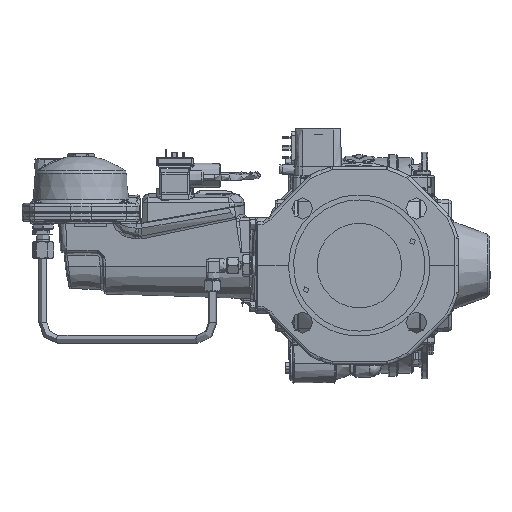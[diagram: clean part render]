
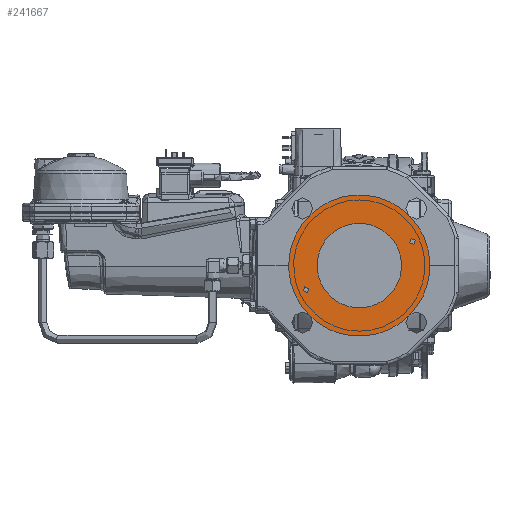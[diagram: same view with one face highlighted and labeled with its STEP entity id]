
A CAD part, left-side view. The second image highlights one B-rep face of the part: STEP entity #241667.
In plain terms, the highlighted planar face has unit normal (-1, 0, 0).
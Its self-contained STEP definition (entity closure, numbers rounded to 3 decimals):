
#4965 = EDGE_CURVE ( 'NONE', #110021, #110021, #8990, .T. ) ;
#8990 = CIRCLE ( 'NONE', #286834, 63.5 ) ;
#10215 = CARTESIAN_POINT ( 'NONE',  ( -147., -193.948, 19.18 ) ) ;
#13393 = EDGE_LOOP ( 'NONE', ( #53530 ) ) ;
#14048 = CARTESIAN_POINT ( 'NONE',  ( -147., -98.323, -24.189 ) ) ;
#15447 = DIRECTION ( 'NONE',  ( 0., -0.413, -0.911 ) ) ;
#15833 = AXIS2_PLACEMENT_3D ( 'NONE', #124392, #234942, #236856 ) ;
#24997 = AXIS2_PLACEMENT_3D ( 'NONE', #150844, #58248, #79971 ) ;
#30562 = EDGE_LOOP ( 'NONE', ( #283146 ) ) ;
#42140 = DIRECTION ( 'NONE',  ( 1., 0., 0. ) ) ;
#53530 = ORIENTED_EDGE ( 'NONE', *, *, #4965, .F. ) ;
#58248 = DIRECTION ( 'NONE',  ( 1., 0., 0. ) ) ;
#60240 = CIRCLE ( 'NONE', #197398, 2.75 ) ;
#61653 = EDGE_CURVE ( 'NONE', #71065, #71065, #83782, .T. ) ;
#70041 = DIRECTION ( 'NONE',  ( 1., 0., 0. ) ) ;
#71065 = VERTEX_POINT ( 'NONE', #10215 ) ;
#79971 = DIRECTION ( 'NONE',  ( 0., -0.413, -0.911 ) ) ;
#83782 = CIRCLE ( 'NONE', #15833, 2.75 ) ;
#86503 = DIRECTION ( 'NONE',  ( 0., -0.413, -0.911 ) ) ;
#90894 = EDGE_CURVE ( 'NONE', #204798, #204798, #138253, .T. ) ;
#92646 = FACE_OUTER_BOUND ( 'NONE', #13393, .T. ) ;
#95539 = DIRECTION ( 'NONE',  ( 0., -0.413, -0.911 ) ) ;
#102935 = EDGE_LOOP ( 'NONE', ( #190637 ) ) ;
#106793 = FACE_BOUND ( 'NONE', #102935, .T. ) ;
#108149 = EDGE_CURVE ( 'NONE', #190714, #190714, #60240, .T. ) ;
#110021 = VERTEX_POINT ( 'NONE', #141268 ) ;
#124392 = CARTESIAN_POINT ( 'NONE',  ( -147., -192.812, 21.685 ) ) ;
#138253 = CIRCLE ( 'NONE', #195577, 38. ) ;
#141268 = CARTESIAN_POINT ( 'NONE',  ( -147., -171.228, -57.83 ) ) ;
#150415 = DIRECTION ( 'NONE',  ( 1., 0., 0. ) ) ;
#150844 = CARTESIAN_POINT ( 'NONE',  ( -147., -145., 0. ) ) ;
#160172 = EDGE_LOOP ( 'NONE', ( #287649 ) ) ;
#173838 = FACE_BOUND ( 'NONE', #30562, .T. ) ;
#190637 = ORIENTED_EDGE ( 'NONE', *, *, #61653, .T. ) ;
#190714 = VERTEX_POINT ( 'NONE', #14048 ) ;
#195577 = AXIS2_PLACEMENT_3D ( 'NONE', #218534, #150415, #15447 ) ;
#197398 = AXIS2_PLACEMENT_3D ( 'NONE', #253295, #70041, #95539 ) ;
#204798 = VERTEX_POINT ( 'NONE', #241627 ) ;
#209293 = FACE_BOUND ( 'NONE', #160172, .T. ) ;
#218534 = CARTESIAN_POINT ( 'NONE',  ( -147., -145., 0. ) ) ;
#234942 = DIRECTION ( 'NONE',  ( 1., 0., 0. ) ) ;
#236856 = DIRECTION ( 'NONE',  ( 0., -0.413, -0.911 ) ) ;
#238690 = PLANE ( 'NONE',  #24997 ) ;
#241627 = CARTESIAN_POINT ( 'NONE',  ( -147., -160.696, -34.607 ) ) ;
#241667 = ADVANCED_FACE ( 'NONE', ( #209293, #92646, #173838, #106793 ), #238690, .F. ) ;
#253295 = CARTESIAN_POINT ( 'NONE',  ( -147., -97.188, -21.685 ) ) ;
#265918 = CARTESIAN_POINT ( 'NONE',  ( -147., -145., 0. ) ) ;
#283146 = ORIENTED_EDGE ( 'NONE', *, *, #90894, .T. ) ;
#286834 = AXIS2_PLACEMENT_3D ( 'NONE', #265918, #42140, #86503 ) ;
#287649 = ORIENTED_EDGE ( 'NONE', *, *, #108149, .T. ) ;
